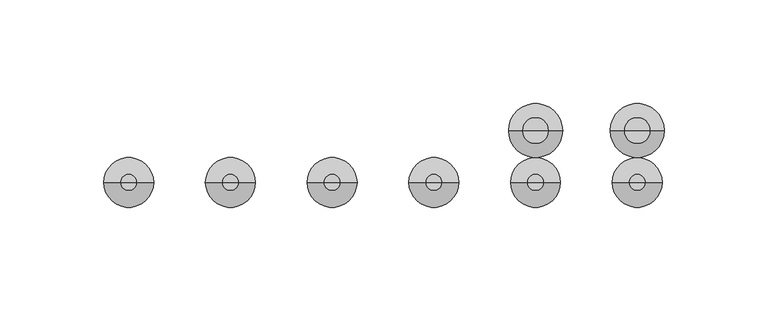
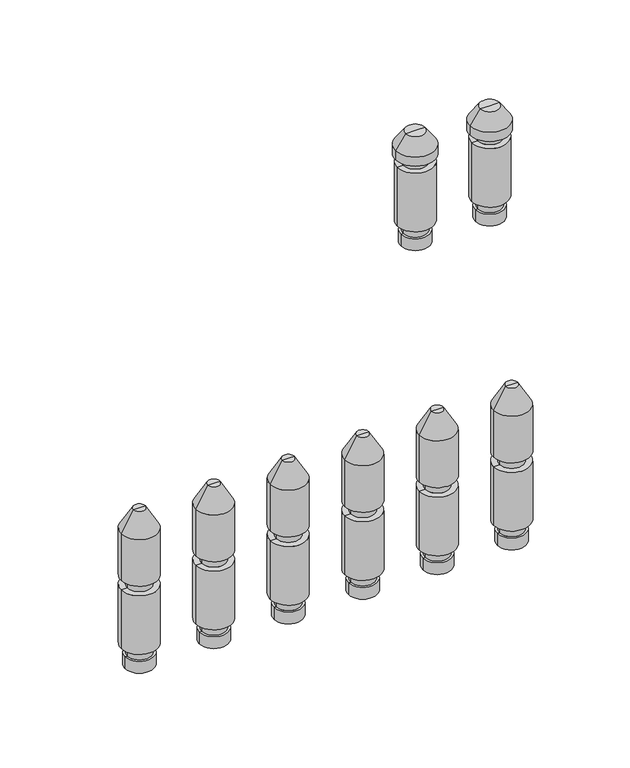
"""IFC4 building model written with IfcOpenShell, lengths in millimetres: valve geometry, PL AT_Manifold_FT-EV : 09 circuits."""

from ifc_helpers import new_model, si_unit, frame, origin, place, context, project, spatial, polyline, circle_curve, source, transform, mapped, element, save
from ifc_brep_helpers import plane_surface, cylinder_surface, revolved_surface, advanced_brep


def valve_f094e97b(model_context):
    return source(origin(), model_context, "Body", "AdvancedBrep", [
        advanced_brep(
        [(375.5, 0.0, -35.11267), (394.5, 0.0, -35.11267), (385.0, 0.0, -35.11267), (375.5, 0.0, -27.0369646), (394.5, 0.0, -27.0369646), (377.0, 0.0, -27.0369646), (393.0, 0.0, -27.0369646), (377.0, 0.0, -20.330253), (393.0, 0.0, -20.330253), (373.0, 0.0, -20.330253), (397.0, 0.0, -20.330253), (373.0, 0.0, 20.330253), (397.0, 0.0, 20.330253), (377.0, 0.0, 20.330253), (393.0, 0.0, 20.330253), (377.0, 0.0, 27.0474786), (393.0, 0.0, 27.0474786), (373.0, 0.0, 27.0474786), (397.0, 0.0, 27.0474786), (373.0, 0.0, 59.4084325), (397.0, 0.0, 59.4084325), (381.0, 0.0, 73.264839), (389.0, 0.0, 73.264839), (385.0, 0.0, 73.264839)],
        [
            (0, 1, circle_curve(frame((385.0, 0.0, -35.11267), z_axis=(0.0, 0.0, -1.0), x_axis=(1.0, 0.0, 0.0)), 9.5)),
            (1, 2),
            (2, 0),
            (1, 0, circle_curve(frame((385.0, 0.0, -35.11267), z_axis=(0.0, 0.0, -1.0), x_axis=(1.0, 0.0, 0.0)), 9.5)),
            (3, 4, circle_curve(frame((385.0, 0.0, -27.0369646), z_axis=(0.0, 0.0, -1.0), x_axis=(1.0, 0.0, 0.0)), 9.5)),
            (4, 1),
            (0, 3),
            (4, 3, circle_curve(frame((385.0, 0.0, -27.0369646), z_axis=(0.0, 0.0, -1.0), x_axis=(1.0, 0.0, 0.0)), 9.5)),
            (5, 6, circle_curve(frame((385.0, 0.0, -27.0369646), z_axis=(0.0, 0.0, -1.0), x_axis=(1.0, 0.0, 0.0)), 8.0)),
            (6, 4),
            (3, 5),
            (6, 5, circle_curve(frame((385.0, 0.0, -27.0369646), z_axis=(0.0, 0.0, -1.0), x_axis=(1.0, 0.0, 0.0)), 8.0)),
            (7, 8, circle_curve(frame((385.0, 0.0, -20.330253), z_axis=(0.0, 0.0, -1.0), x_axis=(1.0, 0.0, 0.0)), 8.0)),
            (8, 6),
            (5, 7),
            (8, 7, circle_curve(frame((385.0, 0.0, -20.330253), z_axis=(0.0, 0.0, -1.0), x_axis=(1.0, 0.0, 0.0)), 8.0)),
            (9, 10, circle_curve(frame((385.0, 0.0, -20.330253), z_axis=(0.0, 0.0, -1.0), x_axis=(1.0, 0.0, 0.0)), 12.0)),
            (10, 8),
            (7, 9),
            (10, 9, circle_curve(frame((385.0, 0.0, -20.330253), z_axis=(0.0, 0.0, -1.0), x_axis=(1.0, 0.0, 0.0)), 12.0)),
            (11, 12, circle_curve(frame((385.0, 0.0, 20.330253), z_axis=(0.0, 0.0, -1.0), x_axis=(1.0, 0.0, 0.0)), 12.0)),
            (12, 10),
            (9, 11),
            (12, 11, circle_curve(frame((385.0, 0.0, 20.330253), z_axis=(0.0, 0.0, -1.0), x_axis=(1.0, 0.0, 0.0)), 12.0)),
            (13, 14, circle_curve(frame((385.0, 0.0, 20.330253), z_axis=(0.0, 0.0, -1.0), x_axis=(1.0, 0.0, 0.0)), 8.0)),
            (14, 12),
            (11, 13),
            (14, 13, circle_curve(frame((385.0, 0.0, 20.330253), z_axis=(0.0, 0.0, -1.0), x_axis=(1.0, 0.0, 0.0)), 8.0)),
            (15, 16, circle_curve(frame((385.0, 0.0, 27.0474786), z_axis=(0.0, 0.0, -1.0), x_axis=(1.0, 0.0, 0.0)), 8.0)),
            (16, 14),
            (13, 15),
            (16, 15, circle_curve(frame((385.0, 0.0, 27.0474786), z_axis=(0.0, 0.0, -1.0), x_axis=(1.0, 0.0, 0.0)), 8.0)),
            (17, 18, circle_curve(frame((385.0, 0.0, 27.0474786), z_axis=(0.0, 0.0, -1.0), x_axis=(1.0, 0.0, 0.0)), 12.0)),
            (18, 16),
            (15, 17),
            (18, 17, circle_curve(frame((385.0, 0.0, 27.0474786), z_axis=(0.0, 0.0, -1.0), x_axis=(1.0, 0.0, 0.0)), 12.0)),
            (19, 20, circle_curve(frame((385.0, 0.0, 59.4084325), z_axis=(0.0, 0.0, -1.0), x_axis=(1.0, 0.0, 0.0)), 12.0)),
            (20, 18),
            (17, 19),
            (20, 19, circle_curve(frame((385.0, 0.0, 59.4084325), z_axis=(0.0, 0.0, -1.0), x_axis=(1.0, 0.0, 0.0)), 12.0)),
            (21, 22, circle_curve(frame((385.0, 0.0, 73.264839), z_axis=(0.0, 0.0, -1.0), x_axis=(1.0, 0.0, 0.0)), 4.0)),
            (22, 20),
            (19, 21),
            (22, 21, circle_curve(frame((385.0, 0.0, 73.264839), z_axis=(0.0, 0.0, -1.0), x_axis=(1.0, 0.0, 0.0)), 4.0)),
            (23, 22),
            (21, 23),
        ],
        [
            plane_surface(frame((385.0, 0.0, -35.11267), z_axis=(0.0, 0.0, -1.0), x_axis=(1.0, 0.0, 0.0))),
            cylinder_surface(frame((385.0, 0.0, 58.264839), z_axis=(0.0, 0.0, 1.0), x_axis=(1.0, 0.0, 0.0)), 9.5),
            plane_surface(frame((385.0, 0.0, -27.0369646), z_axis=(0.0, 0.0, 1.0), x_axis=(1.0, 0.0, 0.0))),
            cylinder_surface(frame((385.0, 0.0, 58.264839), z_axis=(0.0, 0.0, 1.0), x_axis=(1.0, 0.0, 0.0)), 8.0),
            plane_surface(frame((385.0, 0.0, -20.330253), z_axis=(0.0, 0.0, -1.0), x_axis=(1.0, 0.0, 0.0))),
            cylinder_surface(frame((385.0, 0.0, 58.264839), z_axis=(0.0, 0.0, 1.0), x_axis=(1.0, 0.0, 0.0)), 12.0),
            plane_surface(frame((385.0, 0.0, 20.330253), z_axis=(0.0, 0.0, 1.0), x_axis=(1.0, 0.0, 0.0))),
            plane_surface(frame((385.0, 0.0, 27.0474786), z_axis=(0.0, 0.0, -1.0), x_axis=(1.0, 0.0, 0.0))),
            revolved_surface(polyline([(397.0, 0.0, 59.4084325), (389.0, 0.0, 73.264839)]), (385.0, 0.0, 58.264839), (0.0, 0.0, 1.0)),
            plane_surface(frame((385.0, 0.0, 73.264839), z_axis=(0.0, 0.0, 1.0), x_axis=(1.0, 0.0, 0.0))),
        ],
        [
            (0, [[1, 2, 3]]),
            (0, [[4, -3, -2]]),
            (1, [[5, 6, -1, 7]]),
            (1, [[8, -7, -4, -6]]),
            (2, [[9, 10, -5, 11]]),
            (2, [[12, -11, -8, -10]]),
            (3, [[13, 14, -9, 15]]),
            (3, [[16, -15, -12, -14]]),
            (4, [[17, 18, -13, 19]]),
            (4, [[20, -19, -16, -18]]),
            (5, [[21, 22, -17, 23]]),
            (5, [[24, -23, -20, -22]]),
            (6, [[25, 26, -21, 27]]),
            (6, [[28, -27, -24, -26]]),
            (3, [[29, 30, -25, 31]]),
            (3, [[32, -31, -28, -30]]),
            (7, [[33, 34, -29, 35]]),
            (7, [[36, -35, -32, -34]]),
            (5, [[37, 38, -33, 39]]),
            (5, [[40, -39, -36, -38]]),
            (8, [[41, 42, -37, 43]]),
            (8, [[44, -43, -40, -42]]),
            (9, [[45, -41, 46]]),
            (9, [[-46, -44, -45]]),
        ],
    ),
        advanced_brep(
        [(375.5, 25.0, 174.88733), (394.5, 25.0, 174.88733), (385.0, 25.0, 174.88733), (375.5, 25.0, 182.9630354), (394.5, 25.0, 182.9630354), (377.0, 25.0, 182.9630354), (393.0, 25.0, 182.9630354), (377.0, 25.0, 189.669747), (393.0, 25.0, 189.669747), (373.0, 25.0, 189.669747), (397.0, 25.0, 189.669747), (373.0, 25.0, 230.330253), (397.0, 25.0, 230.330253), (377.0, 25.0, 230.330253), (393.0, 25.0, 230.330253), (377.0, 25.0, 236.0474786), (393.0, 25.0, 236.0474786), (372.0, 25.0, 236.0474786), (398.0, 25.0, 236.0474786), (372.0, 25.0, 242.337955), (398.0, 25.0, 242.337955), (378.6551779, 25.0, 251.842534), (391.3448221, 25.0, 251.842534), (385.0, 25.0, 251.842534)],
        [
            (0, 1, circle_curve(frame((385.0, 25.0, 174.88733), z_axis=(0.0, 0.0, -1.0), x_axis=(1.0, 0.0, 0.0)), 9.5)),
            (1, 2),
            (2, 0),
            (1, 0, circle_curve(frame((385.0, 25.0, 174.88733), z_axis=(0.0, 0.0, -1.0), x_axis=(1.0, 0.0, 0.0)), 9.5)),
            (3, 4, circle_curve(frame((385.0, 25.0, 182.9630354), z_axis=(0.0, 0.0, -1.0), x_axis=(1.0, 0.0, 0.0)), 9.5)),
            (4, 1),
            (0, 3),
            (4, 3, circle_curve(frame((385.0, 25.0, 182.9630354), z_axis=(0.0, 0.0, -1.0), x_axis=(1.0, 0.0, 0.0)), 9.5)),
            (5, 6, circle_curve(frame((385.0, 25.0, 182.9630354), z_axis=(0.0, 0.0, -1.0), x_axis=(1.0, 0.0, 0.0)), 8.0)),
            (6, 4),
            (3, 5),
            (6, 5, circle_curve(frame((385.0, 25.0, 182.9630354), z_axis=(0.0, 0.0, -1.0), x_axis=(1.0, 0.0, 0.0)), 8.0)),
            (7, 8, circle_curve(frame((385.0, 25.0, 189.669747), z_axis=(0.0, 0.0, -1.0), x_axis=(1.0, 0.0, 0.0)), 8.0)),
            (8, 6),
            (5, 7),
            (8, 7, circle_curve(frame((385.0, 25.0, 189.669747), z_axis=(0.0, 0.0, -1.0), x_axis=(1.0, 0.0, 0.0)), 8.0)),
            (9, 10, circle_curve(frame((385.0, 25.0, 189.669747), z_axis=(0.0, 0.0, -1.0), x_axis=(1.0, 0.0, 0.0)), 12.0)),
            (10, 8),
            (7, 9),
            (10, 9, circle_curve(frame((385.0, 25.0, 189.669747), z_axis=(0.0, 0.0, -1.0), x_axis=(1.0, 0.0, 0.0)), 12.0)),
            (11, 12, circle_curve(frame((385.0, 25.0, 230.330253), z_axis=(0.0, 0.0, -1.0), x_axis=(1.0, 0.0, 0.0)), 12.0)),
            (12, 10),
            (9, 11),
            (12, 11, circle_curve(frame((385.0, 25.0, 230.330253), z_axis=(0.0, 0.0, -1.0), x_axis=(1.0, 0.0, 0.0)), 12.0)),
            (13, 14, circle_curve(frame((385.0, 25.0, 230.330253), z_axis=(0.0, 0.0, -1.0), x_axis=(1.0, 0.0, 0.0)), 8.0)),
            (14, 12),
            (11, 13),
            (14, 13, circle_curve(frame((385.0, 25.0, 230.330253), z_axis=(0.0, 0.0, -1.0), x_axis=(1.0, 0.0, 0.0)), 8.0)),
            (15, 16, circle_curve(frame((385.0, 25.0, 236.0474786), z_axis=(0.0, 0.0, -1.0), x_axis=(1.0, 0.0, 0.0)), 8.0)),
            (16, 14),
            (13, 15),
            (16, 15, circle_curve(frame((385.0, 25.0, 236.0474786), z_axis=(0.0, 0.0, -1.0), x_axis=(1.0, 0.0, 0.0)), 8.0)),
            (17, 18, circle_curve(frame((385.0, 25.0, 236.0474786), z_axis=(0.0, 0.0, -1.0), x_axis=(1.0, 0.0, 0.0)), 13.0)),
            (18, 16),
            (15, 17),
            (18, 17, circle_curve(frame((385.0, 25.0, 236.0474786), z_axis=(0.0, 0.0, -1.0), x_axis=(1.0, 0.0, 0.0)), 13.0)),
            (19, 20, circle_curve(frame((385.0, 25.0, 242.337955), z_axis=(0.0, 0.0, -1.0), x_axis=(1.0, 0.0, 0.0)), 13.0)),
            (20, 18),
            (17, 19),
            (20, 19, circle_curve(frame((385.0, 25.0, 242.337955), z_axis=(0.0, 0.0, -1.0), x_axis=(1.0, 0.0, 0.0)), 13.0)),
            (21, 22, circle_curve(frame((385.0, 25.0, 251.842534), z_axis=(0.0, 0.0, -1.0), x_axis=(1.0, 0.0, 0.0)), 6.3448221)),
            (22, 20),
            (19, 21),
            (22, 21, circle_curve(frame((385.0, 25.0, 251.842534), z_axis=(0.0, 0.0, -1.0), x_axis=(1.0, 0.0, 0.0)), 6.3448221)),
            (23, 22),
            (21, 23),
        ],
        [
            plane_surface(frame((385.0, 25.0, 174.88733), z_axis=(0.0, 0.0, -1.0), x_axis=(1.0, 0.0, 0.0))),
            cylinder_surface(frame((385.0, 25.0, 247.7026565), z_axis=(0.0, 0.0, 1.0), x_axis=(1.0, 0.0, 0.0)), 9.5),
            plane_surface(frame((385.0, 25.0, 182.9630354), z_axis=(0.0, 0.0, 1.0), x_axis=(1.0, 0.0, 0.0))),
            cylinder_surface(frame((385.0, 25.0, 247.7026565), z_axis=(0.0, 0.0, 1.0), x_axis=(1.0, 0.0, 0.0)), 8.0),
            plane_surface(frame((385.0, 25.0, 189.669747), z_axis=(0.0, 0.0, -1.0), x_axis=(1.0, 0.0, 0.0))),
            cylinder_surface(frame((385.0, 25.0, 247.7026565), z_axis=(0.0, 0.0, 1.0), x_axis=(1.0, 0.0, 0.0)), 12.0),
            plane_surface(frame((385.0, 25.0, 230.330253), z_axis=(0.0, 0.0, 1.0), x_axis=(1.0, 0.0, 0.0))),
            plane_surface(frame((385.0, 25.0, 236.0474786), z_axis=(0.0, 0.0, -1.0), x_axis=(1.0, 0.0, 0.0))),
            cylinder_surface(frame((385.0, 25.0, 247.7026565), z_axis=(0.0, 0.0, 1.0), x_axis=(1.0, 0.0, 0.0)), 13.0),
            revolved_surface(polyline([(398.0, 25.0, 242.337955), (391.3448221, 25.0, 251.842534)]), (385.0, 25.0, 247.7026565), (0.0, 0.0, 1.0)),
            plane_surface(frame((385.0, 25.0, 251.842534), z_axis=(0.0, 0.0, 1.0), x_axis=(1.0, 0.0, 0.0))),
        ],
        [
            (0, [[1, 2, 3]]),
            (0, [[4, -3, -2]]),
            (1, [[5, 6, -1, 7]]),
            (1, [[8, -7, -4, -6]]),
            (2, [[9, 10, -5, 11]]),
            (2, [[12, -11, -8, -10]]),
            (3, [[13, 14, -9, 15]]),
            (3, [[16, -15, -12, -14]]),
            (4, [[17, 18, -13, 19]]),
            (4, [[20, -19, -16, -18]]),
            (5, [[21, 22, -17, 23]]),
            (5, [[24, -23, -20, -22]]),
            (6, [[25, 26, -21, 27]]),
            (6, [[28, -27, -24, -26]]),
            (3, [[29, 30, -25, 31]]),
            (3, [[32, -31, -28, -30]]),
            (7, [[33, 34, -29, 35]]),
            (7, [[36, -35, -32, -34]]),
            (8, [[37, 38, -33, 39]]),
            (8, [[40, -39, -36, -38]]),
            (9, [[41, 42, -37, 43]]),
            (9, [[44, -43, -40, -42]]),
            (10, [[45, -41, 46]]),
            (10, [[-46, -44, -45]]),
        ],
    ),
        advanced_brep(
        [(326.5, 0.0, -35.11267), (345.5, 0.0, -35.11267), (336.0, 0.0, -35.11267), (326.5, 0.0, -27.0369646), (345.5, 0.0, -27.0369646), (328.0, 0.0, -27.0369646), (344.0, 0.0, -27.0369646), (328.0, 0.0, -20.330253), (344.0, 0.0, -20.330253), (324.0, 0.0, -20.330253), (348.0, 0.0, -20.330253), (324.0, 0.0, 20.330253), (348.0, 0.0, 20.330253), (328.0, 0.0, 20.330253), (344.0, 0.0, 20.330253), (328.0, 0.0, 27.0474786), (344.0, 0.0, 27.0474786), (324.0, 0.0, 27.0474786), (348.0, 0.0, 27.0474786), (324.0, 0.0, 59.4084325), (348.0, 0.0, 59.4084325), (332.0, 0.0, 73.264839), (340.0, 0.0, 73.264839), (336.0, 0.0, 73.264839)],
        [
            (0, 1, circle_curve(frame((336.0, 0.0, -35.11267), z_axis=(0.0, 0.0, -1.0), x_axis=(1.0, 0.0, 0.0)), 9.5)),
            (1, 2),
            (2, 0),
            (1, 0, circle_curve(frame((336.0, 0.0, -35.11267), z_axis=(0.0, 0.0, -1.0), x_axis=(1.0, 0.0, 0.0)), 9.5)),
            (3, 4, circle_curve(frame((336.0, 0.0, -27.0369646), z_axis=(0.0, 0.0, -1.0), x_axis=(1.0, 0.0, 0.0)), 9.5)),
            (4, 1),
            (0, 3),
            (4, 3, circle_curve(frame((336.0, 0.0, -27.0369646), z_axis=(0.0, 0.0, -1.0), x_axis=(1.0, 0.0, 0.0)), 9.5)),
            (5, 6, circle_curve(frame((336.0, 0.0, -27.0369646), z_axis=(0.0, 0.0, -1.0), x_axis=(1.0, 0.0, 0.0)), 8.0)),
            (6, 4),
            (3, 5),
            (6, 5, circle_curve(frame((336.0, 0.0, -27.0369646), z_axis=(0.0, 0.0, -1.0), x_axis=(1.0, 0.0, 0.0)), 8.0)),
            (7, 8, circle_curve(frame((336.0, 0.0, -20.330253), z_axis=(0.0, 0.0, -1.0), x_axis=(1.0, 0.0, 0.0)), 8.0)),
            (8, 6),
            (5, 7),
            (8, 7, circle_curve(frame((336.0, 0.0, -20.330253), z_axis=(0.0, 0.0, -1.0), x_axis=(1.0, 0.0, 0.0)), 8.0)),
            (9, 10, circle_curve(frame((336.0, 0.0, -20.330253), z_axis=(0.0, 0.0, -1.0), x_axis=(1.0, 0.0, 0.0)), 12.0)),
            (10, 8),
            (7, 9),
            (10, 9, circle_curve(frame((336.0, 0.0, -20.330253), z_axis=(0.0, 0.0, -1.0), x_axis=(1.0, 0.0, 0.0)), 12.0)),
            (11, 12, circle_curve(frame((336.0, 0.0, 20.330253), z_axis=(0.0, 0.0, -1.0), x_axis=(1.0, 0.0, 0.0)), 12.0)),
            (12, 10),
            (9, 11),
            (12, 11, circle_curve(frame((336.0, 0.0, 20.330253), z_axis=(0.0, 0.0, -1.0), x_axis=(1.0, 0.0, 0.0)), 12.0)),
            (13, 14, circle_curve(frame((336.0, 0.0, 20.330253), z_axis=(0.0, 0.0, -1.0), x_axis=(1.0, 0.0, 0.0)), 8.0)),
            (14, 12),
            (11, 13),
            (14, 13, circle_curve(frame((336.0, 0.0, 20.330253), z_axis=(0.0, 0.0, -1.0), x_axis=(1.0, 0.0, 0.0)), 8.0)),
            (15, 16, circle_curve(frame((336.0, 0.0, 27.0474786), z_axis=(0.0, 0.0, -1.0), x_axis=(1.0, 0.0, 0.0)), 8.0)),
            (16, 14),
            (13, 15),
            (16, 15, circle_curve(frame((336.0, 0.0, 27.0474786), z_axis=(0.0, 0.0, -1.0), x_axis=(1.0, 0.0, 0.0)), 8.0)),
            (17, 18, circle_curve(frame((336.0, 0.0, 27.0474786), z_axis=(0.0, 0.0, -1.0), x_axis=(1.0, 0.0, 0.0)), 12.0)),
            (18, 16),
            (15, 17),
            (18, 17, circle_curve(frame((336.0, 0.0, 27.0474786), z_axis=(0.0, 0.0, -1.0), x_axis=(1.0, 0.0, 0.0)), 12.0)),
            (19, 20, circle_curve(frame((336.0, 0.0, 59.4084325), z_axis=(0.0, 0.0, -1.0), x_axis=(1.0, 0.0, 0.0)), 12.0)),
            (20, 18),
            (17, 19),
            (20, 19, circle_curve(frame((336.0, 0.0, 59.4084325), z_axis=(0.0, 0.0, -1.0), x_axis=(1.0, 0.0, 0.0)), 12.0)),
            (21, 22, circle_curve(frame((336.0, 0.0, 73.264839), z_axis=(0.0, 0.0, -1.0), x_axis=(1.0, 0.0, 0.0)), 4.0)),
            (22, 20),
            (19, 21),
            (22, 21, circle_curve(frame((336.0, 0.0, 73.264839), z_axis=(0.0, 0.0, -1.0), x_axis=(1.0, 0.0, 0.0)), 4.0)),
            (23, 22),
            (21, 23),
        ],
        [
            plane_surface(frame((336.0, 0.0, -35.11267), z_axis=(0.0, 0.0, -1.0), x_axis=(1.0, 0.0, 0.0))),
            cylinder_surface(frame((336.0, 0.0, 58.264839), z_axis=(0.0, 0.0, 1.0), x_axis=(1.0, 0.0, 0.0)), 9.5),
            plane_surface(frame((336.0, 0.0, -27.0369646), z_axis=(0.0, 0.0, 1.0), x_axis=(1.0, 0.0, 0.0))),
            cylinder_surface(frame((336.0, 0.0, 58.264839), z_axis=(0.0, 0.0, 1.0), x_axis=(1.0, 0.0, 0.0)), 8.0),
            plane_surface(frame((336.0, 0.0, -20.330253), z_axis=(0.0, 0.0, -1.0), x_axis=(1.0, 0.0, 0.0))),
            cylinder_surface(frame((336.0, 0.0, 58.264839), z_axis=(0.0, 0.0, 1.0), x_axis=(1.0, 0.0, 0.0)), 12.0),
            plane_surface(frame((336.0, 0.0, 20.330253), z_axis=(0.0, 0.0, 1.0), x_axis=(1.0, 0.0, 0.0))),
            plane_surface(frame((336.0, 0.0, 27.0474786), z_axis=(0.0, 0.0, -1.0), x_axis=(1.0, 0.0, 0.0))),
            revolved_surface(polyline([(348.0, 0.0, 59.4084325), (340.0, 0.0, 73.264839)]), (336.0, 0.0, 58.264839), (0.0, 0.0, 1.0)),
            plane_surface(frame((336.0, 0.0, 73.264839), z_axis=(0.0, 0.0, 1.0), x_axis=(1.0, 0.0, 0.0))),
        ],
        [
            (0, [[1, 2, 3]]),
            (0, [[4, -3, -2]]),
            (1, [[5, 6, -1, 7]]),
            (1, [[8, -7, -4, -6]]),
            (2, [[9, 10, -5, 11]]),
            (2, [[12, -11, -8, -10]]),
            (3, [[13, 14, -9, 15]]),
            (3, [[16, -15, -12, -14]]),
            (4, [[17, 18, -13, 19]]),
            (4, [[20, -19, -16, -18]]),
            (5, [[21, 22, -17, 23]]),
            (5, [[24, -23, -20, -22]]),
            (6, [[25, 26, -21, 27]]),
            (6, [[28, -27, -24, -26]]),
            (3, [[29, 30, -25, 31]]),
            (3, [[32, -31, -28, -30]]),
            (7, [[33, 34, -29, 35]]),
            (7, [[36, -35, -32, -34]]),
            (5, [[37, 38, -33, 39]]),
            (5, [[40, -39, -36, -38]]),
            (8, [[41, 42, -37, 43]]),
            (8, [[44, -43, -40, -42]]),
            (9, [[45, -41, 46]]),
            (9, [[-46, -44, -45]]),
        ],
    ),
        advanced_brep(
        [(326.5, 25.0, 174.88733), (345.5, 25.0, 174.88733), (336.0, 25.0, 174.88733), (326.5, 25.0, 182.9630354), (345.5, 25.0, 182.9630354), (328.0, 25.0, 182.9630354), (344.0, 25.0, 182.9630354), (328.0, 25.0, 189.669747), (344.0, 25.0, 189.669747), (324.0, 25.0, 189.669747), (348.0, 25.0, 189.669747), (324.0, 25.0, 230.330253), (348.0, 25.0, 230.330253), (328.0, 25.0, 230.330253), (344.0, 25.0, 230.330253), (328.0, 25.0, 236.0474786), (344.0, 25.0, 236.0474786), (323.0, 25.0, 236.0474786), (349.0, 25.0, 236.0474786), (323.0, 25.0, 242.337955), (349.0, 25.0, 242.337955), (329.6551779, 25.0, 251.842534), (342.3448221, 25.0, 251.842534), (336.0, 25.0, 251.842534)],
        [
            (0, 1, circle_curve(frame((336.0, 25.0, 174.88733), z_axis=(0.0, 0.0, -1.0), x_axis=(1.0, 0.0, 0.0)), 9.5)),
            (1, 2),
            (2, 0),
            (1, 0, circle_curve(frame((336.0, 25.0, 174.88733), z_axis=(0.0, 0.0, -1.0), x_axis=(1.0, 0.0, 0.0)), 9.5)),
            (3, 4, circle_curve(frame((336.0, 25.0, 182.9630354), z_axis=(0.0, 0.0, -1.0), x_axis=(1.0, 0.0, 0.0)), 9.5)),
            (4, 1),
            (0, 3),
            (4, 3, circle_curve(frame((336.0, 25.0, 182.9630354), z_axis=(0.0, 0.0, -1.0), x_axis=(1.0, 0.0, 0.0)), 9.5)),
            (5, 6, circle_curve(frame((336.0, 25.0, 182.9630354), z_axis=(0.0, 0.0, -1.0), x_axis=(1.0, 0.0, 0.0)), 8.0)),
            (6, 4),
            (3, 5),
            (6, 5, circle_curve(frame((336.0, 25.0, 182.9630354), z_axis=(0.0, 0.0, -1.0), x_axis=(1.0, 0.0, 0.0)), 8.0)),
            (7, 8, circle_curve(frame((336.0, 25.0, 189.669747), z_axis=(0.0, 0.0, -1.0), x_axis=(1.0, 0.0, 0.0)), 8.0)),
            (8, 6),
            (5, 7),
            (8, 7, circle_curve(frame((336.0, 25.0, 189.669747), z_axis=(0.0, 0.0, -1.0), x_axis=(1.0, 0.0, 0.0)), 8.0)),
            (9, 10, circle_curve(frame((336.0, 25.0, 189.669747), z_axis=(0.0, 0.0, -1.0), x_axis=(1.0, 0.0, 0.0)), 12.0)),
            (10, 8),
            (7, 9),
            (10, 9, circle_curve(frame((336.0, 25.0, 189.669747), z_axis=(0.0, 0.0, -1.0), x_axis=(1.0, 0.0, 0.0)), 12.0)),
            (11, 12, circle_curve(frame((336.0, 25.0, 230.330253), z_axis=(0.0, 0.0, -1.0), x_axis=(1.0, 0.0, 0.0)), 12.0)),
            (12, 10),
            (9, 11),
            (12, 11, circle_curve(frame((336.0, 25.0, 230.330253), z_axis=(0.0, 0.0, -1.0), x_axis=(1.0, 0.0, 0.0)), 12.0)),
            (13, 14, circle_curve(frame((336.0, 25.0, 230.330253), z_axis=(0.0, 0.0, -1.0), x_axis=(1.0, 0.0, 0.0)), 8.0)),
            (14, 12),
            (11, 13),
            (14, 13, circle_curve(frame((336.0, 25.0, 230.330253), z_axis=(0.0, 0.0, -1.0), x_axis=(1.0, 0.0, 0.0)), 8.0)),
            (15, 16, circle_curve(frame((336.0, 25.0, 236.0474786), z_axis=(0.0, 0.0, -1.0), x_axis=(1.0, 0.0, 0.0)), 8.0)),
            (16, 14),
            (13, 15),
            (16, 15, circle_curve(frame((336.0, 25.0, 236.0474786), z_axis=(0.0, 0.0, -1.0), x_axis=(1.0, 0.0, 0.0)), 8.0)),
            (17, 18, circle_curve(frame((336.0, 25.0, 236.0474786), z_axis=(0.0, 0.0, -1.0), x_axis=(1.0, 0.0, 0.0)), 13.0)),
            (18, 16),
            (15, 17),
            (18, 17, circle_curve(frame((336.0, 25.0, 236.0474786), z_axis=(0.0, 0.0, -1.0), x_axis=(1.0, 0.0, 0.0)), 13.0)),
            (19, 20, circle_curve(frame((336.0, 25.0, 242.337955), z_axis=(0.0, 0.0, -1.0), x_axis=(1.0, 0.0, 0.0)), 13.0)),
            (20, 18),
            (17, 19),
            (20, 19, circle_curve(frame((336.0, 25.0, 242.337955), z_axis=(0.0, 0.0, -1.0), x_axis=(1.0, 0.0, 0.0)), 13.0)),
            (21, 22, circle_curve(frame((336.0, 25.0, 251.842534), z_axis=(0.0, 0.0, -1.0), x_axis=(1.0, 0.0, 0.0)), 6.3448221)),
            (22, 20),
            (19, 21),
            (22, 21, circle_curve(frame((336.0, 25.0, 251.842534), z_axis=(0.0, 0.0, -1.0), x_axis=(1.0, 0.0, 0.0)), 6.3448221)),
            (23, 22),
            (21, 23),
        ],
        [
            plane_surface(frame((336.0, 25.0, 174.88733), z_axis=(0.0, 0.0, -1.0), x_axis=(1.0, 0.0, 0.0))),
            cylinder_surface(frame((336.0, 25.0, 247.7026565), z_axis=(0.0, 0.0, 1.0), x_axis=(1.0, 0.0, 0.0)), 9.5),
            plane_surface(frame((336.0, 25.0, 182.9630354), z_axis=(0.0, 0.0, 1.0), x_axis=(1.0, 0.0, 0.0))),
            cylinder_surface(frame((336.0, 25.0, 247.7026565), z_axis=(0.0, 0.0, 1.0), x_axis=(1.0, 0.0, 0.0)), 8.0),
            plane_surface(frame((336.0, 25.0, 189.669747), z_axis=(0.0, 0.0, -1.0), x_axis=(1.0, 0.0, 0.0))),
            cylinder_surface(frame((336.0, 25.0, 247.7026565), z_axis=(0.0, 0.0, 1.0), x_axis=(1.0, 0.0, 0.0)), 12.0),
            plane_surface(frame((336.0, 25.0, 230.330253), z_axis=(0.0, 0.0, 1.0), x_axis=(1.0, 0.0, 0.0))),
            plane_surface(frame((336.0, 25.0, 236.0474786), z_axis=(0.0, 0.0, -1.0), x_axis=(1.0, 0.0, 0.0))),
            cylinder_surface(frame((336.0, 25.0, 247.7026565), z_axis=(0.0, 0.0, 1.0), x_axis=(1.0, 0.0, 0.0)), 13.0),
            revolved_surface(polyline([(349.0, 25.0, 242.337955), (342.3448221, 25.0, 251.842534)]), (336.0, 25.0, 247.7026565), (0.0, 0.0, 1.0)),
            plane_surface(frame((336.0, 25.0, 251.842534), z_axis=(0.0, 0.0, 1.0), x_axis=(1.0, 0.0, 0.0))),
        ],
        [
            (0, [[1, 2, 3]]),
            (0, [[4, -3, -2]]),
            (1, [[5, 6, -1, 7]]),
            (1, [[8, -7, -4, -6]]),
            (2, [[9, 10, -5, 11]]),
            (2, [[12, -11, -8, -10]]),
            (3, [[13, 14, -9, 15]]),
            (3, [[16, -15, -12, -14]]),
            (4, [[17, 18, -13, 19]]),
            (4, [[20, -19, -16, -18]]),
            (5, [[21, 22, -17, 23]]),
            (5, [[24, -23, -20, -22]]),
            (6, [[25, 26, -21, 27]]),
            (6, [[28, -27, -24, -26]]),
            (3, [[29, 30, -25, 31]]),
            (3, [[32, -31, -28, -30]]),
            (7, [[33, 34, -29, 35]]),
            (7, [[36, -35, -32, -34]]),
            (8, [[37, 38, -33, 39]]),
            (8, [[40, -39, -36, -38]]),
            (9, [[41, 42, -37, 43]]),
            (9, [[44, -43, -40, -42]]),
            (10, [[45, -41, 46]]),
            (10, [[-46, -44, -45]]),
        ],
    ),
        advanced_brep(
        [(277.5, 0.0, -35.11267), (296.5, 0.0, -35.11267), (287.0, 0.0, -35.11267), (277.5, 0.0, -27.0369646), (296.5, 0.0, -27.0369646), (279.0, 0.0, -27.0369646), (295.0, 0.0, -27.0369646), (279.0, 0.0, -20.330253), (295.0, 0.0, -20.330253), (275.0, 0.0, -20.330253), (299.0, 0.0, -20.330253), (275.0, 0.0, 20.330253), (299.0, 0.0, 20.330253), (279.0, 0.0, 20.330253), (295.0, 0.0, 20.330253), (279.0, 0.0, 27.0474786), (295.0, 0.0, 27.0474786), (275.0, 0.0, 27.0474786), (299.0, 0.0, 27.0474786), (275.0, 0.0, 59.4084325), (299.0, 0.0, 59.4084325), (283.0, 0.0, 73.264839), (291.0, 0.0, 73.264839), (287.0, 0.0, 73.264839)],
        [
            (0, 1, circle_curve(frame((287.0, 0.0, -35.11267), z_axis=(0.0, 0.0, -1.0), x_axis=(1.0, 0.0, 0.0)), 9.5)),
            (1, 2),
            (2, 0),
            (1, 0, circle_curve(frame((287.0, 0.0, -35.11267), z_axis=(0.0, 0.0, -1.0), x_axis=(1.0, 0.0, 0.0)), 9.5)),
            (3, 4, circle_curve(frame((287.0, 0.0, -27.0369646), z_axis=(0.0, 0.0, -1.0), x_axis=(1.0, 0.0, 0.0)), 9.5)),
            (4, 1),
            (0, 3),
            (4, 3, circle_curve(frame((287.0, 0.0, -27.0369646), z_axis=(0.0, 0.0, -1.0), x_axis=(1.0, 0.0, 0.0)), 9.5)),
            (5, 6, circle_curve(frame((287.0, 0.0, -27.0369646), z_axis=(0.0, 0.0, -1.0), x_axis=(1.0, 0.0, 0.0)), 8.0)),
            (6, 4),
            (3, 5),
            (6, 5, circle_curve(frame((287.0, 0.0, -27.0369646), z_axis=(0.0, 0.0, -1.0), x_axis=(1.0, 0.0, 0.0)), 8.0)),
            (7, 8, circle_curve(frame((287.0, 0.0, -20.330253), z_axis=(0.0, 0.0, -1.0), x_axis=(1.0, 0.0, 0.0)), 8.0)),
            (8, 6),
            (5, 7),
            (8, 7, circle_curve(frame((287.0, 0.0, -20.330253), z_axis=(0.0, 0.0, -1.0), x_axis=(1.0, 0.0, 0.0)), 8.0)),
            (9, 10, circle_curve(frame((287.0, 0.0, -20.330253), z_axis=(0.0, 0.0, -1.0), x_axis=(1.0, 0.0, 0.0)), 12.0)),
            (10, 8),
            (7, 9),
            (10, 9, circle_curve(frame((287.0, 0.0, -20.330253), z_axis=(0.0, 0.0, -1.0), x_axis=(1.0, 0.0, 0.0)), 12.0)),
            (11, 12, circle_curve(frame((287.0, 0.0, 20.330253), z_axis=(0.0, 0.0, -1.0), x_axis=(1.0, 0.0, 0.0)), 12.0)),
            (12, 10),
            (9, 11),
            (12, 11, circle_curve(frame((287.0, 0.0, 20.330253), z_axis=(0.0, 0.0, -1.0), x_axis=(1.0, 0.0, 0.0)), 12.0)),
            (13, 14, circle_curve(frame((287.0, 0.0, 20.330253), z_axis=(0.0, 0.0, -1.0), x_axis=(1.0, 0.0, 0.0)), 8.0)),
            (14, 12),
            (11, 13),
            (14, 13, circle_curve(frame((287.0, 0.0, 20.330253), z_axis=(0.0, 0.0, -1.0), x_axis=(1.0, 0.0, 0.0)), 8.0)),
            (15, 16, circle_curve(frame((287.0, 0.0, 27.0474786), z_axis=(0.0, 0.0, -1.0), x_axis=(1.0, 0.0, 0.0)), 8.0)),
            (16, 14),
            (13, 15),
            (16, 15, circle_curve(frame((287.0, 0.0, 27.0474786), z_axis=(0.0, 0.0, -1.0), x_axis=(1.0, 0.0, 0.0)), 8.0)),
            (17, 18, circle_curve(frame((287.0, 0.0, 27.0474786), z_axis=(0.0, 0.0, -1.0), x_axis=(1.0, 0.0, 0.0)), 12.0)),
            (18, 16),
            (15, 17),
            (18, 17, circle_curve(frame((287.0, 0.0, 27.0474786), z_axis=(0.0, 0.0, -1.0), x_axis=(1.0, 0.0, 0.0)), 12.0)),
            (19, 20, circle_curve(frame((287.0, 0.0, 59.4084325), z_axis=(0.0, 0.0, -1.0), x_axis=(1.0, 0.0, 0.0)), 12.0)),
            (20, 18),
            (17, 19),
            (20, 19, circle_curve(frame((287.0, 0.0, 59.4084325), z_axis=(0.0, 0.0, -1.0), x_axis=(1.0, 0.0, 0.0)), 12.0)),
            (21, 22, circle_curve(frame((287.0, 0.0, 73.264839), z_axis=(0.0, 0.0, -1.0), x_axis=(1.0, 0.0, 0.0)), 4.0)),
            (22, 20),
            (19, 21),
            (22, 21, circle_curve(frame((287.0, 0.0, 73.264839), z_axis=(0.0, 0.0, -1.0), x_axis=(1.0, 0.0, 0.0)), 4.0)),
            (23, 22),
            (21, 23),
        ],
        [
            plane_surface(frame((287.0, 0.0, -35.11267), z_axis=(0.0, 0.0, -1.0), x_axis=(1.0, 0.0, 0.0))),
            cylinder_surface(frame((287.0, 0.0, 58.264839), z_axis=(0.0, 0.0, 1.0), x_axis=(1.0, 0.0, 0.0)), 9.5),
            plane_surface(frame((287.0, 0.0, -27.0369646), z_axis=(0.0, 0.0, 1.0), x_axis=(1.0, 0.0, 0.0))),
            cylinder_surface(frame((287.0, 0.0, 58.264839), z_axis=(0.0, 0.0, 1.0), x_axis=(1.0, 0.0, 0.0)), 8.0),
            plane_surface(frame((287.0, 0.0, -20.330253), z_axis=(0.0, 0.0, -1.0), x_axis=(1.0, 0.0, 0.0))),
            cylinder_surface(frame((287.0, 0.0, 58.264839), z_axis=(0.0, 0.0, 1.0), x_axis=(1.0, 0.0, 0.0)), 12.0),
            plane_surface(frame((287.0, 0.0, 20.330253), z_axis=(0.0, 0.0, 1.0), x_axis=(1.0, 0.0, 0.0))),
            plane_surface(frame((287.0, 0.0, 27.0474786), z_axis=(0.0, 0.0, -1.0), x_axis=(1.0, 0.0, 0.0))),
            revolved_surface(polyline([(299.0, 0.0, 59.4084325), (291.0, 0.0, 73.264839)]), (287.0, 0.0, 58.264839), (0.0, 0.0, 1.0)),
            plane_surface(frame((287.0, 0.0, 73.264839), z_axis=(0.0, 0.0, 1.0), x_axis=(1.0, 0.0, 0.0))),
        ],
        [
            (0, [[1, 2, 3]]),
            (0, [[4, -3, -2]]),
            (1, [[5, 6, -1, 7]]),
            (1, [[8, -7, -4, -6]]),
            (2, [[9, 10, -5, 11]]),
            (2, [[12, -11, -8, -10]]),
            (3, [[13, 14, -9, 15]]),
            (3, [[16, -15, -12, -14]]),
            (4, [[17, 18, -13, 19]]),
            (4, [[20, -19, -16, -18]]),
            (5, [[21, 22, -17, 23]]),
            (5, [[24, -23, -20, -22]]),
            (6, [[25, 26, -21, 27]]),
            (6, [[28, -27, -24, -26]]),
            (3, [[29, 30, -25, 31]]),
            (3, [[32, -31, -28, -30]]),
            (7, [[33, 34, -29, 35]]),
            (7, [[36, -35, -32, -34]]),
            (5, [[37, 38, -33, 39]]),
            (5, [[40, -39, -36, -38]]),
            (8, [[41, 42, -37, 43]]),
            (8, [[44, -43, -40, -42]]),
            (9, [[45, -41, 46]]),
            (9, [[-46, -44, -45]]),
        ],
    ),
        advanced_brep(
        [(228.5, 0.0, -35.11267), (247.5, 0.0, -35.11267), (238.0, 0.0, -35.11267), (228.5, 0.0, -27.0369646), (247.5, 0.0, -27.0369646), (230.0, 0.0, -27.0369646), (246.0, 0.0, -27.0369646), (230.0, 0.0, -20.330253), (246.0, 0.0, -20.330253), (226.0, 0.0, -20.330253), (250.0, 0.0, -20.330253), (226.0, 0.0, 20.330253), (250.0, 0.0, 20.330253), (230.0, 0.0, 20.330253), (246.0, 0.0, 20.330253), (230.0, 0.0, 27.0474786), (246.0, 0.0, 27.0474786), (226.0, 0.0, 27.0474786), (250.0, 0.0, 27.0474786), (226.0, 0.0, 59.4084325), (250.0, 0.0, 59.4084325), (234.0, 0.0, 73.264839), (242.0, 0.0, 73.264839), (238.0, 0.0, 73.264839)],
        [
            (0, 1, circle_curve(frame((238.0, 0.0, -35.11267), z_axis=(0.0, 0.0, -1.0), x_axis=(1.0, 0.0, 0.0)), 9.5)),
            (1, 2),
            (2, 0),
            (1, 0, circle_curve(frame((238.0, 0.0, -35.11267), z_axis=(0.0, 0.0, -1.0), x_axis=(1.0, 0.0, 0.0)), 9.5)),
            (3, 4, circle_curve(frame((238.0, 0.0, -27.0369646), z_axis=(0.0, 0.0, -1.0), x_axis=(1.0, 0.0, 0.0)), 9.5)),
            (4, 1),
            (0, 3),
            (4, 3, circle_curve(frame((238.0, 0.0, -27.0369646), z_axis=(0.0, 0.0, -1.0), x_axis=(1.0, 0.0, 0.0)), 9.5)),
            (5, 6, circle_curve(frame((238.0, 0.0, -27.0369646), z_axis=(0.0, 0.0, -1.0), x_axis=(1.0, 0.0, 0.0)), 8.0)),
            (6, 4),
            (3, 5),
            (6, 5, circle_curve(frame((238.0, 0.0, -27.0369646), z_axis=(0.0, 0.0, -1.0), x_axis=(1.0, 0.0, 0.0)), 8.0)),
            (7, 8, circle_curve(frame((238.0, 0.0, -20.330253), z_axis=(0.0, 0.0, -1.0), x_axis=(1.0, 0.0, 0.0)), 8.0)),
            (8, 6),
            (5, 7),
            (8, 7, circle_curve(frame((238.0, 0.0, -20.330253), z_axis=(0.0, 0.0, -1.0), x_axis=(1.0, 0.0, 0.0)), 8.0)),
            (9, 10, circle_curve(frame((238.0, 0.0, -20.330253), z_axis=(0.0, 0.0, -1.0), x_axis=(1.0, 0.0, 0.0)), 12.0)),
            (10, 8),
            (7, 9),
            (10, 9, circle_curve(frame((238.0, 0.0, -20.330253), z_axis=(0.0, 0.0, -1.0), x_axis=(1.0, 0.0, 0.0)), 12.0)),
            (11, 12, circle_curve(frame((238.0, 0.0, 20.330253), z_axis=(0.0, 0.0, -1.0), x_axis=(1.0, 0.0, 0.0)), 12.0)),
            (12, 10),
            (9, 11),
            (12, 11, circle_curve(frame((238.0, 0.0, 20.330253), z_axis=(0.0, 0.0, -1.0), x_axis=(1.0, 0.0, 0.0)), 12.0)),
            (13, 14, circle_curve(frame((238.0, 0.0, 20.330253), z_axis=(0.0, 0.0, -1.0), x_axis=(1.0, 0.0, 0.0)), 8.0)),
            (14, 12),
            (11, 13),
            (14, 13, circle_curve(frame((238.0, 0.0, 20.330253), z_axis=(0.0, 0.0, -1.0), x_axis=(1.0, 0.0, 0.0)), 8.0)),
            (15, 16, circle_curve(frame((238.0, 0.0, 27.0474786), z_axis=(0.0, 0.0, -1.0), x_axis=(1.0, 0.0, 0.0)), 8.0)),
            (16, 14),
            (13, 15),
            (16, 15, circle_curve(frame((238.0, 0.0, 27.0474786), z_axis=(0.0, 0.0, -1.0), x_axis=(1.0, 0.0, 0.0)), 8.0)),
            (17, 18, circle_curve(frame((238.0, 0.0, 27.0474786), z_axis=(0.0, 0.0, -1.0), x_axis=(1.0, 0.0, 0.0)), 12.0)),
            (18, 16),
            (15, 17),
            (18, 17, circle_curve(frame((238.0, 0.0, 27.0474786), z_axis=(0.0, 0.0, -1.0), x_axis=(1.0, 0.0, 0.0)), 12.0)),
            (19, 20, circle_curve(frame((238.0, 0.0, 59.4084325), z_axis=(0.0, 0.0, -1.0), x_axis=(1.0, 0.0, 0.0)), 12.0)),
            (20, 18),
            (17, 19),
            (20, 19, circle_curve(frame((238.0, 0.0, 59.4084325), z_axis=(0.0, 0.0, -1.0), x_axis=(1.0, 0.0, 0.0)), 12.0)),
            (21, 22, circle_curve(frame((238.0, 0.0, 73.264839), z_axis=(0.0, 0.0, -1.0), x_axis=(1.0, 0.0, 0.0)), 4.0)),
            (22, 20),
            (19, 21),
            (22, 21, circle_curve(frame((238.0, 0.0, 73.264839), z_axis=(0.0, 0.0, -1.0), x_axis=(1.0, 0.0, 0.0)), 4.0)),
            (23, 22),
            (21, 23),
        ],
        [
            plane_surface(frame((238.0, 0.0, -35.11267), z_axis=(0.0, 0.0, -1.0), x_axis=(1.0, 0.0, 0.0))),
            cylinder_surface(frame((238.0, 0.0, 58.264839), z_axis=(0.0, 0.0, 1.0), x_axis=(1.0, 0.0, 0.0)), 9.5),
            plane_surface(frame((238.0, 0.0, -27.0369646), z_axis=(0.0, 0.0, 1.0), x_axis=(1.0, 0.0, 0.0))),
            cylinder_surface(frame((238.0, 0.0, 58.264839), z_axis=(0.0, 0.0, 1.0), x_axis=(1.0, 0.0, 0.0)), 8.0),
            plane_surface(frame((238.0, 0.0, -20.330253), z_axis=(0.0, 0.0, -1.0), x_axis=(1.0, 0.0, 0.0))),
            cylinder_surface(frame((238.0, 0.0, 58.264839), z_axis=(0.0, 0.0, 1.0), x_axis=(1.0, 0.0, 0.0)), 12.0),
            plane_surface(frame((238.0, 0.0, 20.330253), z_axis=(0.0, 0.0, 1.0), x_axis=(1.0, 0.0, 0.0))),
            plane_surface(frame((238.0, 0.0, 27.0474786), z_axis=(0.0, 0.0, -1.0), x_axis=(1.0, 0.0, 0.0))),
            revolved_surface(polyline([(250.0, 0.0, 59.4084325), (242.0, 0.0, 73.264839)]), (238.0, 0.0, 58.264839), (0.0, 0.0, 1.0)),
            plane_surface(frame((238.0, 0.0, 73.264839), z_axis=(0.0, 0.0, 1.0), x_axis=(1.0, 0.0, 0.0))),
        ],
        [
            (0, [[1, 2, 3]]),
            (0, [[4, -3, -2]]),
            (1, [[5, 6, -1, 7]]),
            (1, [[8, -7, -4, -6]]),
            (2, [[9, 10, -5, 11]]),
            (2, [[12, -11, -8, -10]]),
            (3, [[13, 14, -9, 15]]),
            (3, [[16, -15, -12, -14]]),
            (4, [[17, 18, -13, 19]]),
            (4, [[20, -19, -16, -18]]),
            (5, [[21, 22, -17, 23]]),
            (5, [[24, -23, -20, -22]]),
            (6, [[25, 26, -21, 27]]),
            (6, [[28, -27, -24, -26]]),
            (3, [[29, 30, -25, 31]]),
            (3, [[32, -31, -28, -30]]),
            (7, [[33, 34, -29, 35]]),
            (7, [[36, -35, -32, -34]]),
            (5, [[37, 38, -33, 39]]),
            (5, [[40, -39, -36, -38]]),
            (8, [[41, 42, -37, 43]]),
            (8, [[44, -43, -40, -42]]),
            (9, [[45, -41, 46]]),
            (9, [[-46, -44, -45]]),
        ],
    ),
        advanced_brep(
        [(179.5, 0.0, -35.11267), (198.5, 0.0, -35.11267), (189.0, 0.0, -35.11267), (179.5, 0.0, -27.0369646), (198.5, 0.0, -27.0369646), (181.0, 0.0, -27.0369646), (197.0, 0.0, -27.0369646), (181.0, 0.0, -20.330253), (197.0, 0.0, -20.330253), (177.0, 0.0, -20.330253), (201.0, 0.0, -20.330253), (177.0, 0.0, 20.330253), (201.0, 0.0, 20.330253), (181.0, 0.0, 20.330253), (197.0, 0.0, 20.330253), (181.0, 0.0, 27.0474786), (197.0, 0.0, 27.0474786), (177.0, 0.0, 27.0474786), (201.0, 0.0, 27.0474786), (177.0, 0.0, 59.4084325), (201.0, 0.0, 59.4084325), (185.0, 0.0, 73.264839), (193.0, 0.0, 73.264839), (189.0, 0.0, 73.264839)],
        [
            (0, 1, circle_curve(frame((189.0, 0.0, -35.11267), z_axis=(0.0, 0.0, -1.0), x_axis=(1.0, 0.0, 0.0)), 9.5)),
            (1, 2),
            (2, 0),
            (1, 0, circle_curve(frame((189.0, 0.0, -35.11267), z_axis=(0.0, 0.0, -1.0), x_axis=(1.0, 0.0, 0.0)), 9.5)),
            (3, 4, circle_curve(frame((189.0, 0.0, -27.0369646), z_axis=(0.0, 0.0, -1.0), x_axis=(1.0, 0.0, 0.0)), 9.5)),
            (4, 1),
            (0, 3),
            (4, 3, circle_curve(frame((189.0, 0.0, -27.0369646), z_axis=(0.0, 0.0, -1.0), x_axis=(1.0, 0.0, 0.0)), 9.5)),
            (5, 6, circle_curve(frame((189.0, 0.0, -27.0369646), z_axis=(0.0, 0.0, -1.0), x_axis=(1.0, 0.0, 0.0)), 8.0)),
            (6, 4),
            (3, 5),
            (6, 5, circle_curve(frame((189.0, 0.0, -27.0369646), z_axis=(0.0, 0.0, -1.0), x_axis=(1.0, 0.0, 0.0)), 8.0)),
            (7, 8, circle_curve(frame((189.0, 0.0, -20.330253), z_axis=(0.0, 0.0, -1.0), x_axis=(1.0, 0.0, 0.0)), 8.0)),
            (8, 6),
            (5, 7),
            (8, 7, circle_curve(frame((189.0, 0.0, -20.330253), z_axis=(0.0, 0.0, -1.0), x_axis=(1.0, 0.0, 0.0)), 8.0)),
            (9, 10, circle_curve(frame((189.0, 0.0, -20.330253), z_axis=(0.0, 0.0, -1.0), x_axis=(1.0, 0.0, 0.0)), 12.0)),
            (10, 8),
            (7, 9),
            (10, 9, circle_curve(frame((189.0, 0.0, -20.330253), z_axis=(0.0, 0.0, -1.0), x_axis=(1.0, 0.0, 0.0)), 12.0)),
            (11, 12, circle_curve(frame((189.0, 0.0, 20.330253), z_axis=(0.0, 0.0, -1.0), x_axis=(1.0, 0.0, 0.0)), 12.0)),
            (12, 10),
            (9, 11),
            (12, 11, circle_curve(frame((189.0, 0.0, 20.330253), z_axis=(0.0, 0.0, -1.0), x_axis=(1.0, 0.0, 0.0)), 12.0)),
            (13, 14, circle_curve(frame((189.0, 0.0, 20.330253), z_axis=(0.0, 0.0, -1.0), x_axis=(1.0, 0.0, 0.0)), 8.0)),
            (14, 12),
            (11, 13),
            (14, 13, circle_curve(frame((189.0, 0.0, 20.330253), z_axis=(0.0, 0.0, -1.0), x_axis=(1.0, 0.0, 0.0)), 8.0)),
            (15, 16, circle_curve(frame((189.0, 0.0, 27.0474786), z_axis=(0.0, 0.0, -1.0), x_axis=(1.0, 0.0, 0.0)), 8.0)),
            (16, 14),
            (13, 15),
            (16, 15, circle_curve(frame((189.0, 0.0, 27.0474786), z_axis=(0.0, 0.0, -1.0), x_axis=(1.0, 0.0, 0.0)), 8.0)),
            (17, 18, circle_curve(frame((189.0, 0.0, 27.0474786), z_axis=(0.0, 0.0, -1.0), x_axis=(1.0, 0.0, 0.0)), 12.0)),
            (18, 16),
            (15, 17),
            (18, 17, circle_curve(frame((189.0, 0.0, 27.0474786), z_axis=(0.0, 0.0, -1.0), x_axis=(1.0, 0.0, 0.0)), 12.0)),
            (19, 20, circle_curve(frame((189.0, 0.0, 59.4084325), z_axis=(0.0, 0.0, -1.0), x_axis=(1.0, 0.0, 0.0)), 12.0)),
            (20, 18),
            (17, 19),
            (20, 19, circle_curve(frame((189.0, 0.0, 59.4084325), z_axis=(0.0, 0.0, -1.0), x_axis=(1.0, 0.0, 0.0)), 12.0)),
            (21, 22, circle_curve(frame((189.0, 0.0, 73.264839), z_axis=(0.0, 0.0, -1.0), x_axis=(1.0, 0.0, 0.0)), 4.0)),
            (22, 20),
            (19, 21),
            (22, 21, circle_curve(frame((189.0, 0.0, 73.264839), z_axis=(0.0, 0.0, -1.0), x_axis=(1.0, 0.0, 0.0)), 4.0)),
            (23, 22),
            (21, 23),
        ],
        [
            plane_surface(frame((189.0, 0.0, -35.11267), z_axis=(0.0, 0.0, -1.0), x_axis=(1.0, 0.0, 0.0))),
            cylinder_surface(frame((189.0, 0.0, 58.264839), z_axis=(0.0, 0.0, 1.0), x_axis=(1.0, 0.0, 0.0)), 9.5),
            plane_surface(frame((189.0, 0.0, -27.0369646), z_axis=(0.0, 0.0, 1.0), x_axis=(1.0, 0.0, 0.0))),
            cylinder_surface(frame((189.0, 0.0, 58.264839), z_axis=(0.0, 0.0, 1.0), x_axis=(1.0, 0.0, 0.0)), 8.0),
            plane_surface(frame((189.0, 0.0, -20.330253), z_axis=(0.0, 0.0, -1.0), x_axis=(1.0, 0.0, 0.0))),
            cylinder_surface(frame((189.0, 0.0, 58.264839), z_axis=(0.0, 0.0, 1.0), x_axis=(1.0, 0.0, 0.0)), 12.0),
            plane_surface(frame((189.0, 0.0, 20.330253), z_axis=(0.0, 0.0, 1.0), x_axis=(1.0, 0.0, 0.0))),
            plane_surface(frame((189.0, 0.0, 27.0474786), z_axis=(0.0, 0.0, -1.0), x_axis=(1.0, 0.0, 0.0))),
            revolved_surface(polyline([(201.0, 0.0, 59.4084325), (193.0, 0.0, 73.264839)]), (189.0, 0.0, 58.264839), (0.0, 0.0, 1.0)),
            plane_surface(frame((189.0, 0.0, 73.264839), z_axis=(0.0, 0.0, 1.0), x_axis=(1.0, 0.0, 0.0))),
        ],
        [
            (0, [[1, 2, 3]]),
            (0, [[4, -3, -2]]),
            (1, [[5, 6, -1, 7]]),
            (1, [[8, -7, -4, -6]]),
            (2, [[9, 10, -5, 11]]),
            (2, [[12, -11, -8, -10]]),
            (3, [[13, 14, -9, 15]]),
            (3, [[16, -15, -12, -14]]),
            (4, [[17, 18, -13, 19]]),
            (4, [[20, -19, -16, -18]]),
            (5, [[21, 22, -17, 23]]),
            (5, [[24, -23, -20, -22]]),
            (6, [[25, 26, -21, 27]]),
            (6, [[28, -27, -24, -26]]),
            (3, [[29, 30, -25, 31]]),
            (3, [[32, -31, -28, -30]]),
            (7, [[33, 34, -29, 35]]),
            (7, [[36, -35, -32, -34]]),
            (5, [[37, 38, -33, 39]]),
            (5, [[40, -39, -36, -38]]),
            (8, [[41, 42, -37, 43]]),
            (8, [[44, -43, -40, -42]]),
            (9, [[45, -41, 46]]),
            (9, [[-46, -44, -45]]),
        ],
    ),
        advanced_brep(
        [(130.5, 0.0, -35.11267), (149.5, 0.0, -35.11267), (140.0, 0.0, -35.11267), (130.5, 0.0, -27.0369646), (149.5, 0.0, -27.0369646), (132.0, 0.0, -27.0369646), (148.0, 0.0, -27.0369646), (132.0, 0.0, -20.330253), (148.0, 0.0, -20.330253), (128.0, 0.0, -20.330253), (152.0, 0.0, -20.330253), (128.0, 0.0, 20.330253), (152.0, 0.0, 20.330253), (132.0, 0.0, 20.330253), (148.0, 0.0, 20.330253), (132.0, 0.0, 27.0474786), (148.0, 0.0, 27.0474786), (128.0, 0.0, 27.0474786), (152.0, 0.0, 27.0474786), (128.0, 0.0, 59.4084325), (152.0, 0.0, 59.4084325), (136.0, 0.0, 73.264839), (144.0, 0.0, 73.264839), (140.0, 0.0, 73.264839)],
        [
            (0, 1, circle_curve(frame((140.0, 0.0, -35.11267), z_axis=(0.0, 0.0, -1.0), x_axis=(1.0, 0.0, 0.0)), 9.5)),
            (1, 2),
            (2, 0),
            (1, 0, circle_curve(frame((140.0, 0.0, -35.11267), z_axis=(0.0, 0.0, -1.0), x_axis=(1.0, 0.0, 0.0)), 9.5)),
            (3, 4, circle_curve(frame((140.0, 0.0, -27.0369646), z_axis=(0.0, 0.0, -1.0), x_axis=(1.0, 0.0, 0.0)), 9.5)),
            (4, 1),
            (0, 3),
            (4, 3, circle_curve(frame((140.0, 0.0, -27.0369646), z_axis=(0.0, 0.0, -1.0), x_axis=(1.0, 0.0, 0.0)), 9.5)),
            (5, 6, circle_curve(frame((140.0, 0.0, -27.0369646), z_axis=(0.0, 0.0, -1.0), x_axis=(1.0, 0.0, 0.0)), 8.0)),
            (6, 4),
            (3, 5),
            (6, 5, circle_curve(frame((140.0, 0.0, -27.0369646), z_axis=(0.0, 0.0, -1.0), x_axis=(1.0, 0.0, 0.0)), 8.0)),
            (7, 8, circle_curve(frame((140.0, 0.0, -20.330253), z_axis=(0.0, 0.0, -1.0), x_axis=(1.0, 0.0, 0.0)), 8.0)),
            (8, 6),
            (5, 7),
            (8, 7, circle_curve(frame((140.0, 0.0, -20.330253), z_axis=(0.0, 0.0, -1.0), x_axis=(1.0, 0.0, 0.0)), 8.0)),
            (9, 10, circle_curve(frame((140.0, 0.0, -20.330253), z_axis=(0.0, 0.0, -1.0), x_axis=(1.0, 0.0, 0.0)), 12.0)),
            (10, 8),
            (7, 9),
            (10, 9, circle_curve(frame((140.0, 0.0, -20.330253), z_axis=(0.0, 0.0, -1.0), x_axis=(1.0, 0.0, 0.0)), 12.0)),
            (11, 12, circle_curve(frame((140.0, 0.0, 20.330253), z_axis=(0.0, 0.0, -1.0), x_axis=(1.0, 0.0, 0.0)), 12.0)),
            (12, 10),
            (9, 11),
            (12, 11, circle_curve(frame((140.0, 0.0, 20.330253), z_axis=(0.0, 0.0, -1.0), x_axis=(1.0, 0.0, 0.0)), 12.0)),
            (13, 14, circle_curve(frame((140.0, 0.0, 20.330253), z_axis=(0.0, 0.0, -1.0), x_axis=(1.0, 0.0, 0.0)), 8.0)),
            (14, 12),
            (11, 13),
            (14, 13, circle_curve(frame((140.0, 0.0, 20.330253), z_axis=(0.0, 0.0, -1.0), x_axis=(1.0, 0.0, 0.0)), 8.0)),
            (15, 16, circle_curve(frame((140.0, 0.0, 27.0474786), z_axis=(0.0, 0.0, -1.0), x_axis=(1.0, 0.0, 0.0)), 8.0)),
            (16, 14),
            (13, 15),
            (16, 15, circle_curve(frame((140.0, 0.0, 27.0474786), z_axis=(0.0, 0.0, -1.0), x_axis=(1.0, 0.0, 0.0)), 8.0)),
            (17, 18, circle_curve(frame((140.0, 0.0, 27.0474786), z_axis=(0.0, 0.0, -1.0), x_axis=(1.0, 0.0, 0.0)), 12.0)),
            (18, 16),
            (15, 17),
            (18, 17, circle_curve(frame((140.0, 0.0, 27.0474786), z_axis=(0.0, 0.0, -1.0), x_axis=(1.0, 0.0, 0.0)), 12.0)),
            (19, 20, circle_curve(frame((140.0, 0.0, 59.4084325), z_axis=(0.0, 0.0, -1.0), x_axis=(1.0, 0.0, 0.0)), 12.0)),
            (20, 18),
            (17, 19),
            (20, 19, circle_curve(frame((140.0, 0.0, 59.4084325), z_axis=(0.0, 0.0, -1.0), x_axis=(1.0, 0.0, 0.0)), 12.0)),
            (21, 22, circle_curve(frame((140.0, 0.0, 73.264839), z_axis=(0.0, 0.0, -1.0), x_axis=(1.0, 0.0, 0.0)), 4.0)),
            (22, 20),
            (19, 21),
            (22, 21, circle_curve(frame((140.0, 0.0, 73.264839), z_axis=(0.0, 0.0, -1.0), x_axis=(1.0, 0.0, 0.0)), 4.0)),
            (23, 22),
            (21, 23),
        ],
        [
            plane_surface(frame((140.0, 0.0, -35.11267), z_axis=(0.0, 0.0, -1.0), x_axis=(1.0, 0.0, 0.0))),
            cylinder_surface(frame((140.0, 0.0, 58.264839), z_axis=(0.0, 0.0, 1.0), x_axis=(1.0, 0.0, 0.0)), 9.5),
            plane_surface(frame((140.0, 0.0, -27.0369646), z_axis=(0.0, 0.0, 1.0), x_axis=(1.0, 0.0, 0.0))),
            cylinder_surface(frame((140.0, 0.0, 58.264839), z_axis=(0.0, 0.0, 1.0), x_axis=(1.0, 0.0, 0.0)), 8.0),
            plane_surface(frame((140.0, 0.0, -20.330253), z_axis=(0.0, 0.0, -1.0), x_axis=(1.0, 0.0, 0.0))),
            cylinder_surface(frame((140.0, 0.0, 58.264839), z_axis=(0.0, 0.0, 1.0), x_axis=(1.0, 0.0, 0.0)), 12.0),
            plane_surface(frame((140.0, 0.0, 20.330253), z_axis=(0.0, 0.0, 1.0), x_axis=(1.0, 0.0, 0.0))),
            plane_surface(frame((140.0, 0.0, 27.0474786), z_axis=(0.0, 0.0, -1.0), x_axis=(1.0, 0.0, 0.0))),
            revolved_surface(polyline([(152.0, 0.0, 59.4084325), (144.0, 0.0, 73.264839)]), (140.0, 0.0, 58.264839), (0.0, 0.0, 1.0)),
            plane_surface(frame((140.0, 0.0, 73.264839), z_axis=(0.0, 0.0, 1.0), x_axis=(1.0, 0.0, 0.0))),
        ],
        [
            (0, [[1, 2, 3]]),
            (0, [[4, -3, -2]]),
            (1, [[5, 6, -1, 7]]),
            (1, [[8, -7, -4, -6]]),
            (2, [[9, 10, -5, 11]]),
            (2, [[12, -11, -8, -10]]),
            (3, [[13, 14, -9, 15]]),
            (3, [[16, -15, -12, -14]]),
            (4, [[17, 18, -13, 19]]),
            (4, [[20, -19, -16, -18]]),
            (5, [[21, 22, -17, 23]]),
            (5, [[24, -23, -20, -22]]),
            (6, [[25, 26, -21, 27]]),
            (6, [[28, -27, -24, -26]]),
            (3, [[29, 30, -25, 31]]),
            (3, [[32, -31, -28, -30]]),
            (7, [[33, 34, -29, 35]]),
            (7, [[36, -35, -32, -34]]),
            (5, [[37, 38, -33, 39]]),
            (5, [[40, -39, -36, -38]]),
            (8, [[41, 42, -37, 43]]),
            (8, [[44, -43, -40, -42]]),
            (9, [[45, -41, 46]]),
            (9, [[-46, -44, -45]]),
        ],
    ),
    ])


if __name__ == "__main__":
    model = new_model("IFC4")
    model_context = context("Model", 3, world=origin())
    ifc_project = project(units=[si_unit("LENGTHUNIT", "METRE", prefix="MILLI")], contexts=[model_context])
    site = spatial("IfcSite", under=ifc_project)
    building = spatial("IfcBuilding", under=site)
    placement = place(None, origin())
    valve_shape = valve_f094e97b(model_context)
    element("IfcValve", 1, ObjectType="PL AT_Manifold_FT-EV : 09 circuits", at=placement, inside=building, context=model_context, shape_type="MappedRepresentation", body=[
        mapped(valve_shape, transform((0.0, 0.0, 0.0), x_axis=(1.0, 0.0, 0.0), y_axis=(0.0, 1.0, 0.0), z_axis=(0.0, 0.0, 1.0))),
    ])
    save(model, "model.ifc")
